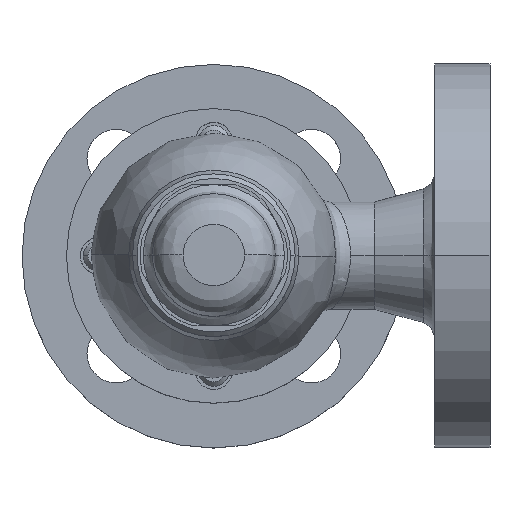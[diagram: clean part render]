
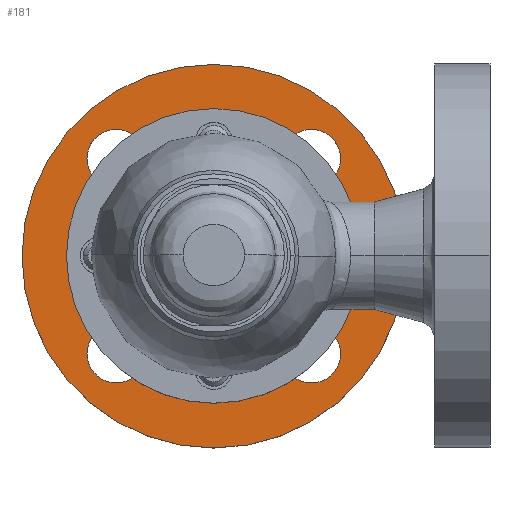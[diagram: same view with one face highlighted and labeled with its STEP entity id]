
A CAD part, top view. The second image highlights one B-rep face of the part: STEP entity #181.
In plain terms, the highlighted planar face has unit normal (0, 0, 1).
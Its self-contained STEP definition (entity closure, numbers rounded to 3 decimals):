
#181=ADVANCED_FACE('',(#380,#381,#382,#383,#384,#385),#379,.T.);
#379=PLANE('',#2146);
#380=FACE_OUTER_BOUND('',#2147,.T.);
#381=FACE_BOUND('',#2148,.T.);
#382=FACE_BOUND('',#2149,.T.);
#383=FACE_BOUND('',#2150,.T.);
#384=FACE_BOUND('',#2151,.T.);
#385=FACE_BOUND('',#2152,.T.);
#2143=CARTESIAN_POINT('',(-72.5,-118.253,-90.));
#2144=DIRECTION('',(0.,0.,1.));
#2145=DIRECTION('',(1.,0.,0.));
#2146=AXIS2_PLACEMENT_3D('',#2143,#2144,#2145);
#2147=EDGE_LOOP('',(#3280,#3281));
#2148=EDGE_LOOP('',(#3282,#3283));
#2149=EDGE_LOOP('',(#3284,#3285));
#2150=EDGE_LOOP('',(#3286,#3287));
#2151=EDGE_LOOP('',(#3288,#3289));
#2152=EDGE_LOOP('',(#3290,#3291));
#3280=ORIENTED_EDGE('',*,*,#3956,.F.);
#3281=ORIENTED_EDGE('',*,*,#3957,.F.);
#3282=ORIENTED_EDGE('',*,*,#3958,.T.);
#3283=ORIENTED_EDGE('',*,*,#3959,.T.);
#3284=ORIENTED_EDGE('',*,*,#3960,.T.);
#3285=ORIENTED_EDGE('',*,*,#3961,.T.);
#3286=ORIENTED_EDGE('',*,*,#3962,.T.);
#3287=ORIENTED_EDGE('',*,*,#3963,.T.);
#3288=ORIENTED_EDGE('',*,*,#3964,.T.);
#3289=ORIENTED_EDGE('',*,*,#3965,.T.);
#3290=ORIENTED_EDGE('',*,*,#3966,.T.);
#3291=ORIENTED_EDGE('',*,*,#3967,.T.);
#3956=EDGE_CURVE('',#4569,#4570,#4571,.T.);
#3957=EDGE_CURVE('',#4570,#4569,#4577,.T.);
#3958=EDGE_CURVE('',#4583,#4584,#4585,.T.);
#3959=EDGE_CURVE('',#4584,#4583,#4591,.T.);
#3960=EDGE_CURVE('',#4597,#4598,#4599,.T.);
#3961=EDGE_CURVE('',#4598,#4597,#4605,.T.);
#3962=EDGE_CURVE('',#4611,#4612,#4613,.T.);
#3963=EDGE_CURVE('',#4612,#4611,#4619,.T.);
#3964=EDGE_CURVE('',#4625,#4626,#4627,.T.);
#3965=EDGE_CURVE('',#4626,#4625,#4633,.T.);
#3966=EDGE_CURVE('',#4639,#4640,#4641,.T.);
#3967=EDGE_CURVE('',#4640,#4639,#4647,.T.);
#4569=VERTEX_POINT('',#6931);
#4570=VERTEX_POINT('',#6932);
#4571=CIRCLE('',#6936,62.5);
#4577=CIRCLE('',#6940,62.5);
#4583=VERTEX_POINT('',#6941);
#4584=VERTEX_POINT('',#6942);
#4585=CIRCLE('',#6946,9.5);
#4591=CIRCLE('',#6950,9.5);
#4597=VERTEX_POINT('',#6951);
#4598=VERTEX_POINT('',#6952);
#4599=CIRCLE('',#6956,9.5);
#4605=CIRCLE('',#6960,9.5);
#4611=VERTEX_POINT('',#6961);
#4612=VERTEX_POINT('',#6962);
#4613=CIRCLE('',#6966,9.5);
#4619=CIRCLE('',#6970,9.5);
#4625=VERTEX_POINT('',#6971);
#4626=VERTEX_POINT('',#6972);
#4627=CIRCLE('',#6976,26.337);
#4633=CIRCLE('',#6980,26.337);
#4639=VERTEX_POINT('',#6981);
#4640=VERTEX_POINT('',#6982);
#4641=CIRCLE('',#6986,9.5);
#4647=CIRCLE('',#6990,9.5);
#6931=CARTESIAN_POINT('',(62.5,0.,-90.));
#6932=CARTESIAN_POINT('',(-62.5,0.,-90.));
#6933=CARTESIAN_POINT('',(0.,0.,-90.));
#6934=DIRECTION('',(0.,0.,-1.));
#6935=DIRECTION('',(-1.,0.,0.));
#6936=AXIS2_PLACEMENT_3D('',#6933,#6934,#6935);
#6937=CARTESIAN_POINT('',(0.,0.,-90.));
#6938=DIRECTION('',(0.,0.,-1.));
#6939=DIRECTION('',(-1.,0.,0.));
#6940=AXIS2_PLACEMENT_3D('',#6937,#6938,#6939);
#6941=CARTESIAN_POINT('',(-22.32,31.82,-90.));
#6942=CARTESIAN_POINT('',(-41.32,31.82,-90.));
#6943=CARTESIAN_POINT('',(-31.82,31.82,-90.));
#6944=DIRECTION('',(0.,0.,-1.));
#6945=DIRECTION('',(1.,0.,0.));
#6946=AXIS2_PLACEMENT_3D('',#6943,#6944,#6945);
#6947=CARTESIAN_POINT('',(-31.82,31.82,-90.));
#6948=DIRECTION('',(0.,0.,-1.));
#6949=DIRECTION('',(1.,0.,0.));
#6950=AXIS2_PLACEMENT_3D('',#6947,#6948,#6949);
#6951=CARTESIAN_POINT('',(-22.32,-31.82,-90.));
#6952=CARTESIAN_POINT('',(-41.32,-31.82,-90.));
#6953=CARTESIAN_POINT('',(-31.82,-31.82,-90.));
#6954=DIRECTION('',(0.,0.,-1.));
#6955=DIRECTION('',(1.,0.,0.));
#6956=AXIS2_PLACEMENT_3D('',#6953,#6954,#6955);
#6957=CARTESIAN_POINT('',(-31.82,-31.82,-90.));
#6958=DIRECTION('',(0.,0.,-1.));
#6959=DIRECTION('',(1.,0.,0.));
#6960=AXIS2_PLACEMENT_3D('',#6957,#6958,#6959);
#6961=CARTESIAN_POINT('',(41.32,-31.82,-90.));
#6962=CARTESIAN_POINT('',(22.32,-31.82,-90.));
#6963=CARTESIAN_POINT('',(31.82,-31.82,-90.));
#6964=DIRECTION('',(0.,0.,-1.));
#6965=DIRECTION('',(1.,0.,0.));
#6966=AXIS2_PLACEMENT_3D('',#6963,#6964,#6965);
#6967=CARTESIAN_POINT('',(31.82,-31.82,-90.));
#6968=DIRECTION('',(0.,0.,-1.));
#6969=DIRECTION('',(1.,0.,0.));
#6970=AXIS2_PLACEMENT_3D('',#6967,#6968,#6969);
#6971=CARTESIAN_POINT('',(-26.337,0.,-90.));
#6972=CARTESIAN_POINT('',(26.337,0.,-90.));
#6973=CARTESIAN_POINT('',(0.,0.,-90.));
#6974=DIRECTION('',(0.,0.,-1.));
#6975=DIRECTION('',(-1.,0.,0.));
#6976=AXIS2_PLACEMENT_3D('',#6973,#6974,#6975);
#6977=CARTESIAN_POINT('',(0.,0.,-90.));
#6978=DIRECTION('',(0.,0.,-1.));
#6979=DIRECTION('',(-1.,0.,0.));
#6980=AXIS2_PLACEMENT_3D('',#6977,#6978,#6979);
#6981=CARTESIAN_POINT('',(41.32,31.82,-90.));
#6982=CARTESIAN_POINT('',(22.32,31.82,-90.));
#6983=CARTESIAN_POINT('',(31.82,31.82,-90.));
#6984=DIRECTION('',(0.,0.,-1.));
#6985=DIRECTION('',(1.,0.,0.));
#6986=AXIS2_PLACEMENT_3D('',#6983,#6984,#6985);
#6987=CARTESIAN_POINT('',(31.82,31.82,-90.));
#6988=DIRECTION('',(0.,0.,-1.));
#6989=DIRECTION('',(1.,0.,0.));
#6990=AXIS2_PLACEMENT_3D('',#6987,#6988,#6989);
